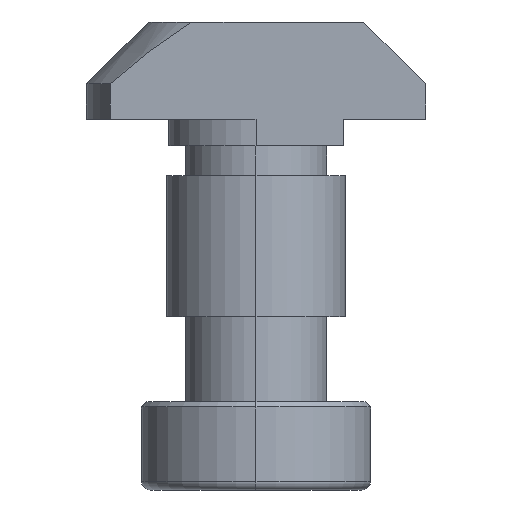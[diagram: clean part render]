
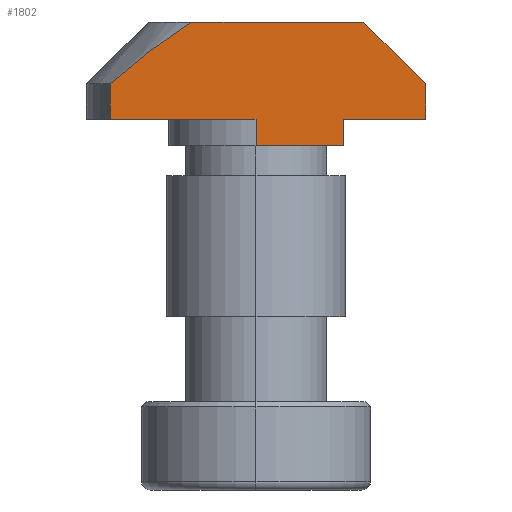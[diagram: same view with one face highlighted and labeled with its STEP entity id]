
A CAD part, left-side view. The second image highlights one B-rep face of the part: STEP entity #1802.
In plain terms, the highlighted planar face has unit normal (-1, 0, 0).
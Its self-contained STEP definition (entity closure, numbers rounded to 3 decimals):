
#27 = VERTEX_POINT ( 'NONE', #1881 ) ;
#29 = VERTEX_POINT ( 'NONE', #2934 ) ;
#78 = ORIENTED_EDGE ( 'NONE', *, *, #2354, .F. ) ;
#100 = CARTESIAN_POINT ( 'NONE',  ( -121.95, 3.633, 26.5 ) ) ;
#178 = CARTESIAN_POINT ( 'NONE',  ( -121.95, 0., 21. ) ) ;
#188 = EDGE_CURVE ( 'NONE', #27, #1412, #3145, .T. ) ;
#288 = EDGE_CURVE ( 'NONE', #1910, #497, #2604, .T. ) ;
#310 = LINE ( 'NONE', #935, #1668 ) ;
#323 = CARTESIAN_POINT ( 'NONE',  ( -121.95, -4.95, 19.5 ) ) ;
#361 = ORIENTED_EDGE ( 'NONE', *, *, #2844, .T. ) ;
#380 = ORIENTED_EDGE ( 'NONE', *, *, #2333, .T. ) ;
#467 = EDGE_CURVE ( 'NONE', #497, #2673, #2822, .T. ) ;
#484 = CARTESIAN_POINT ( 'NONE',  ( -121.95, 8.255, 21. ) ) ;
#497 = VERTEX_POINT ( 'NONE', #2336 ) ;
#506 = CARTESIAN_POINT ( 'NONE',  ( -121.95, 6.778, 24.25 ) ) ;
#526 = CARTESIAN_POINT ( 'NONE',  ( -121.95, 8.255, 26.501 ) ) ;
#566 = CARTESIAN_POINT ( 'NONE',  ( -121.95, -4.95, 19.5 ) ) ;
#618 = ORIENTED_EDGE ( 'NONE', *, *, #467, .T. ) ;
#701 = EDGE_CURVE ( 'NONE', #27, #2680, #310, .T. ) ;
#708 = DIRECTION ( 'NONE',  ( 0., 0., -1. ) ) ;
#738 = CARTESIAN_POINT ( 'NONE',  ( -121.95, -6.1, 26.5 ) ) ;
#740 = DIRECTION ( 'NONE',  ( 0., 1., 0. ) ) ;
#758 = LINE ( 'NONE', #1529, #2843 ) ;
#766 = VECTOR ( 'NONE', #1570, 1000. ) ;
#862 = CARTESIAN_POINT ( 'NONE',  ( -121.95, -9.6, 21. ) ) ;
#923 = VECTOR ( 'NONE', #1878, 1000. ) ;
#935 = CARTESIAN_POINT ( 'NONE',  ( -121.95, -9.6, 21. ) ) ;
#1038 = DIRECTION ( 'NONE',  ( 0., 0., -1. ) ) ;
#1087 = DIRECTION ( 'NONE',  ( 1., 0., 0. ) ) ;
#1195 = VECTOR ( 'NONE', #708, 1000. ) ;
#1268 = CARTESIAN_POINT ( 'NONE',  ( -121.95, -9.6, 23. ) ) ;
#1376 = FACE_OUTER_BOUND ( 'NONE', #2505, .T. ) ;
#1412 = VERTEX_POINT ( 'NONE', #2912 ) ;
#1510 = VECTOR ( 'NONE', #1626, 1000. ) ;
#1529 = CARTESIAN_POINT ( 'NONE',  ( -121.95, -9.6, 23. ) ) ;
#1546 = EDGE_CURVE ( 'NONE', #2291, #29, #3259, .T. ) ;
#1570 = DIRECTION ( 'NONE',  ( 0., 1., 0. ) ) ;
#1616 = DIRECTION ( 'NONE',  ( 0., -1., 0. ) ) ;
#1626 = DIRECTION ( 'NONE',  ( 0., 1., 0. ) ) ;
#1668 = VECTOR ( 'NONE', #2479, 1000. ) ;
#1715 = ORIENTED_EDGE ( 'NONE', *, *, #2907, .T. ) ;
#1753 = EDGE_CURVE ( 'NONE', #2680, #3174, #758, .T. ) ;
#1778 = CARTESIAN_POINT ( 'NONE',  ( -121.95, -4.95, 19.5 ) ) ;
#1802 = ADVANCED_FACE ( 'NONE', ( #1376 ), #2033, .F. ) ;
#1843 = CARTESIAN_POINT ( 'NONE',  ( -121.95, -9.6, 21. ) ) ;
#1878 = DIRECTION ( 'NONE',  ( 0., 0., 1. ) ) ;
#1881 = CARTESIAN_POINT ( 'NONE',  ( -121.95, -9.6, 21. ) ) ;
#1910 = VERTEX_POINT ( 'NONE', #2211 ) ;
#1919 = VERTEX_POINT ( 'NONE', #178 ) ;
#1985 = ORIENTED_EDGE ( 'NONE', *, *, #701, .T. ) ;
#2023 = ORIENTED_EDGE ( 'NONE', *, *, #1546, .F. ) ;
#2033 = PLANE ( 'NONE',  #2968 ) ;
#2044 = CARTESIAN_POINT ( 'NONE',  ( -121.95, 4.454, 25.984 ) ) ;
#2147 = LINE ( 'NONE', #862, #1510 ) ;
#2189 = LINE ( 'NONE', #323, #923 ) ;
#2197 = LINE ( 'NONE', #2643, #3105 ) ;
#2211 = CARTESIAN_POINT ( 'NONE',  ( -121.95, 3.633, 26.5 ) ) ;
#2262 = LINE ( 'NONE', #2872, #3146 ) ;
#2291 = VERTEX_POINT ( 'NONE', #566 ) ;
#2329 = CARTESIAN_POINT ( 'NONE',  ( -121.95, 5.632, 25.138 ) ) ;
#2333 = EDGE_CURVE ( 'NONE', #2291, #1412, #2189, .T. ) ;
#2336 = CARTESIAN_POINT ( 'NONE',  ( -121.95, 8.255, 23. ) ) ;
#2354 = EDGE_CURVE ( 'NONE', #1919, #2673, #2147, .T. ) ;
#2479 = DIRECTION ( 'NONE',  ( 0., 0., 1. ) ) ;
#2505 = EDGE_LOOP ( 'NONE', ( #1985, #3108, #1715, #3213, #618, #78, #361, #2023, #380, #2790 ) ) ;
#2577 = CARTESIAN_POINT ( 'NONE',  ( -121.95, 4.051, 26.251 ) ) ;
#2587 = VECTOR ( 'NONE', #740, 1000. ) ;
#2590 = CARTESIAN_POINT ( 'NONE',  ( -121.95, 7.521, 23.631 ) ) ;
#2604 = B_SPLINE_CURVE_WITH_KNOTS ( 'NONE', 3,
 ( #100, #2577, #2044, #3417, #2329, #506, #2590, #3125 ),
 .UNSPECIFIED., .F., .F.,
 ( 4, 2, 2, 4 ),
 ( 0., 0.001, 0.003, 0.006 ),
 .UNSPECIFIED. ) ;
#2643 = CARTESIAN_POINT ( 'NONE',  ( -121.95, -9.6, 26.5 ) ) ;
#2673 = VERTEX_POINT ( 'NONE', #484 ) ;
#2680 = VERTEX_POINT ( 'NONE', #1268 ) ;
#2790 = ORIENTED_EDGE ( 'NONE', *, *, #188, .F. ) ;
#2822 = LINE ( 'NONE', #526, #1195 ) ;
#2843 = VECTOR ( 'NONE', #3085, 1000. ) ;
#2844 = EDGE_CURVE ( 'NONE', #1919, #29, #2262, .T. ) ;
#2872 = CARTESIAN_POINT ( 'NONE',  ( -121.95, 0., 28. ) ) ;
#2907 = EDGE_CURVE ( 'NONE', #3174, #1910, #2197, .T. ) ;
#2912 = CARTESIAN_POINT ( 'NONE',  ( -121.95, -4.95, 21. ) ) ;
#2919 = DIRECTION ( 'NONE',  ( 0., 1., 0. ) ) ;
#2934 = CARTESIAN_POINT ( 'NONE',  ( -121.95, 0., 19.5 ) ) ;
#2968 = AXIS2_PLACEMENT_3D ( 'NONE', #3364, #1087, #1616 ) ;
#3085 = DIRECTION ( 'NONE',  ( 0., 0.707, 0.707 ) ) ;
#3105 = VECTOR ( 'NONE', #2919, 1000. ) ;
#3108 = ORIENTED_EDGE ( 'NONE', *, *, #1753, .T. ) ;
#3125 = CARTESIAN_POINT ( 'NONE',  ( -121.95, 8.255, 23. ) ) ;
#3145 = LINE ( 'NONE', #1843, #2587 ) ;
#3146 = VECTOR ( 'NONE', #1038, 1000. ) ;
#3174 = VERTEX_POINT ( 'NONE', #738 ) ;
#3213 = ORIENTED_EDGE ( 'NONE', *, *, #288, .T. ) ;
#3259 = LINE ( 'NONE', #1778, #766 ) ;
#3364 = CARTESIAN_POINT ( 'NONE',  ( -121.95, -9.6, 21. ) ) ;
#3417 = CARTESIAN_POINT ( 'NONE',  ( -121.95, 5.245, 25.428 ) ) ;
